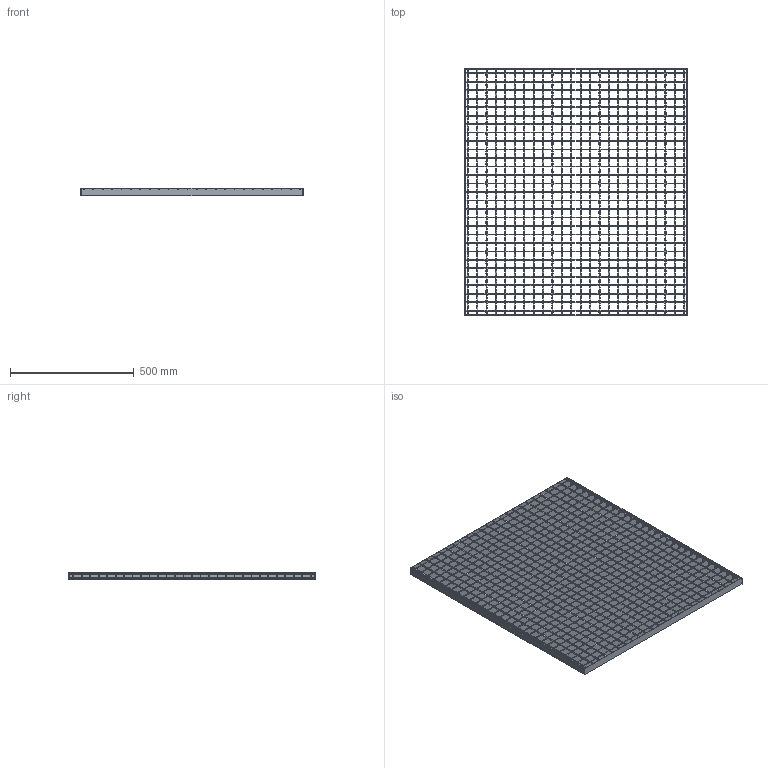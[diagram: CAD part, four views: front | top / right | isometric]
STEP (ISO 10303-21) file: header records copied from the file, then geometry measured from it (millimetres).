
FILE_DESCRIPTION(/* description */ ('STEP AP242','CAx-IF Rec.Pracs.---Representation and Presentation of Product Manufacturing Information (PMI)---4.0---2014-10-13','CAx-IF Rec.Pracs.---3D Tessellated Geometry---0.4---2014-09-14','2;1'),/* implementation_level */ '2;1');
FILE_NAME(/* name */ 'Lichtgitter_Forge_welded_gratings SP 330-34_38-3-1-1-900-1000_(350_1_0)',/* time_stamp */ '2026-04-23T13:49:17+02:00',/* author */ ('License CC BY-ND 4.0'),/* organization */ ('CADENAS'),/* preprocessor_version */ 'ST-DEVELOPER v20',/* originating_system */ 'PARTsolutions',/* authorisation */ ' ');
FILE_SCHEMA (('AP242_MANAGED_MODEL_BASED_3D_ENGINEERING_MIM_LF { 1 0 10303 442 1 1 4 }'));
Length unit declared in the file: millimetre
Products named in the file (5): Lichtgitter_Forge_welded_gratings SP 330-34/38-3-1-1-900-1000_(350_1_
0); Lichtgitter SP 330-34/38-3_(350_1_2_900_1000_Schweisspressroste)_VERT
ICAL_SIDES; Lichtgitter SP 330-34/38-3_(350_1_2_900_1000_Schweisspressroste)_HORI
ZONTAL_C; Lichtgitter SP 330-34/38-3_(350_1_2_900_1000_Schweisspressroste)_HORI
ZONTAL_SIDES; Lichtgitter SP 3.46530-34/38-3.465_(350_1_2_900_1000_Schweisspressros
te)_VERTICAL_C
Assembly tree (57 placements, depth 2):
  Lichtgitter_Forge_welded_gratings SP 330-34/38-3-1-1-900-1000_(350_1_
0)
    Lichtgitter SP 330-34/38-3_(350_1_2_900_1000_Schweisspressroste)_VERT
ICAL_SIDES  x2
    Lichtgitter SP 330-34/38-3_(350_1_2_900_1000_Schweisspressroste)_HORI
ZONTAL_C  x29
    Lichtgitter SP 330-34/38-3_(350_1_2_900_1000_Schweisspressroste)_HORI
ZONTAL_SIDES  x2
    Lichtgitter SP 3.46530-34/38-3.465_(350_1_2_900_1000_Schweisspressros
te)_VERTICAL_C  x24
Bounding box: 900 x 1000 x 30.72 mm (x, y, z)
Volume: 2892723.2 mm3; surface area: 2279761.5 mm2
Topology: 57 solids, 57 shells, 6462 faces, 14340 edges, 7992 vertices
Faces by surface type: bspline 4800, plane 950, cylinder 712
Entity records: 8707 total; most frequent: CARTESIAN_POINT 2718, ORIENTED_EDGE 1240, DIRECTION 956, EDGE_CURVE 620, LINE 552, VECTOR 552, VERTEX_POINT 348, EDGE_LOOP 280
